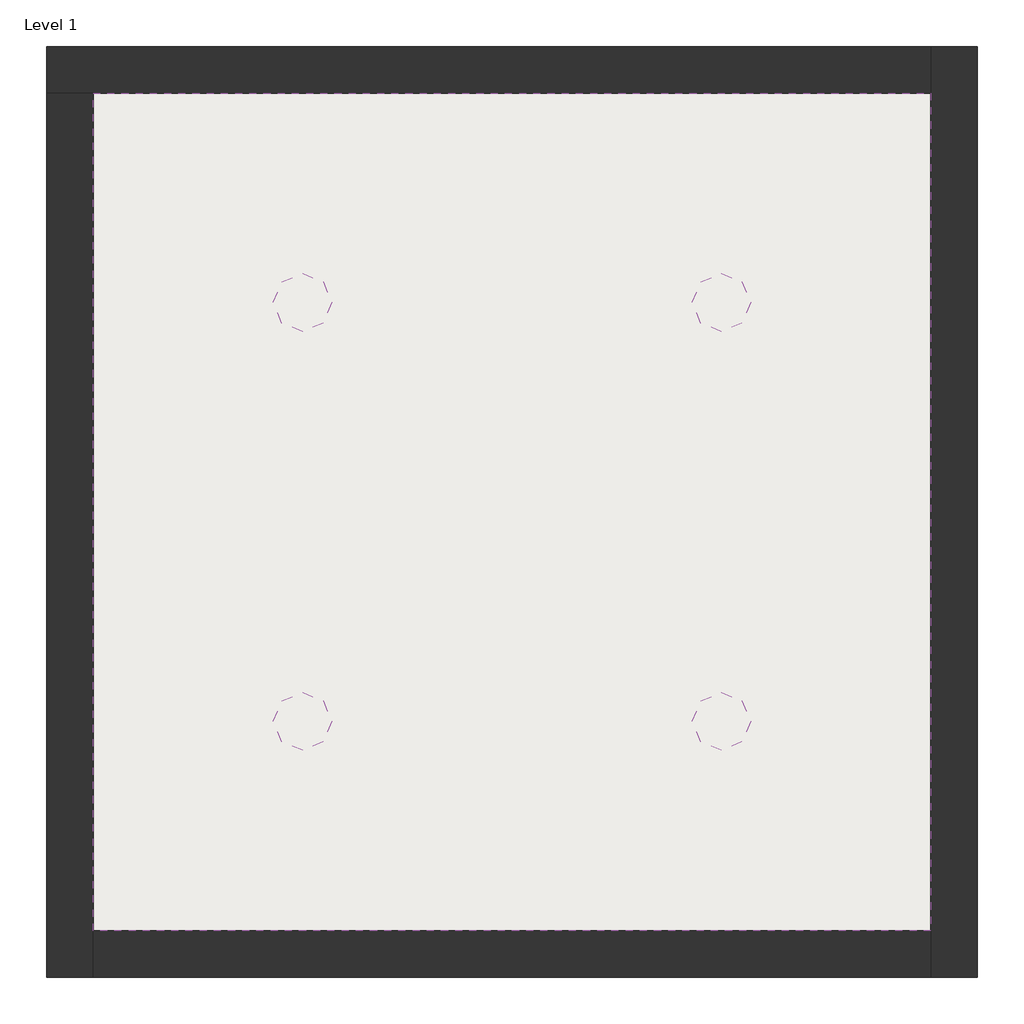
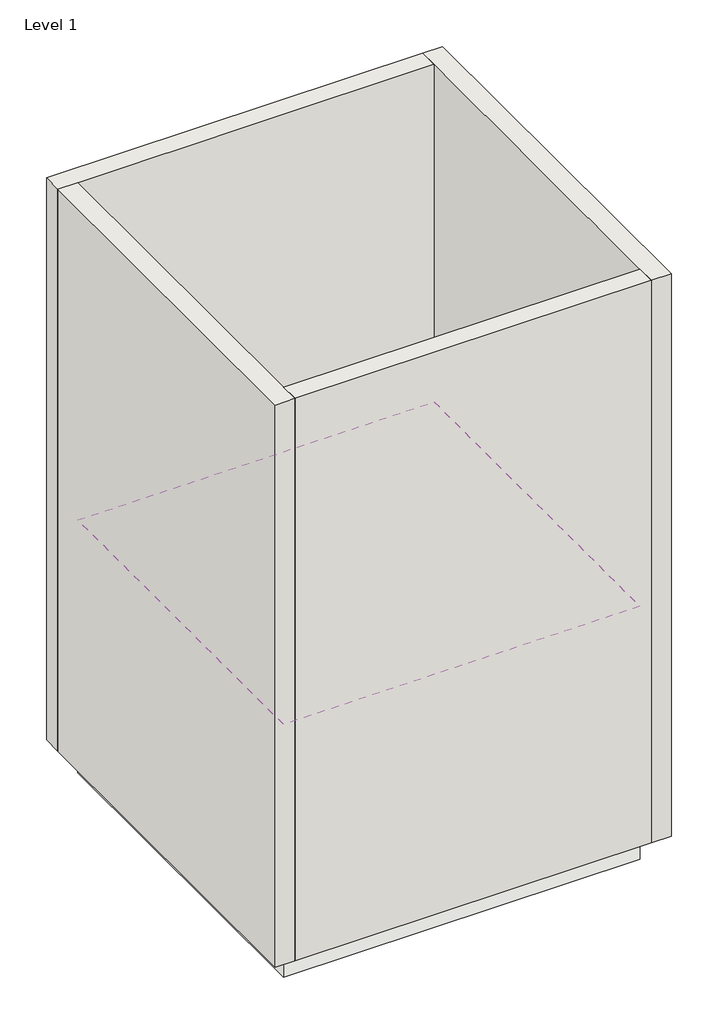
# One storey: 4 light fixtures, 4 walls, 1 covering, 1 slab.
"""IFC4 building model written with IfcOpenShell, lengths in millimetres."""

from ifc_helpers import new_model, si_unit, point, frame, frame_2d, origin, origin_with_axes, place, context, project, spatial, polyline, circle_curve, trimmed, segment, composite_curve, outline, extrude, faceted_brep, transform, mapped, element, save
from components import light_fixture_baddad79

model = new_model("IFC4")

# Units and contexts
model_context = context("Model", 3, world=origin())
ifc_project = project(units=[si_unit("LENGTHUNIT", "METRE", prefix="MILLI")], contexts=[model_context])

# Site, building, storey
site = spatial("IfcSite", under=ifc_project)
building = spatial("IfcBuilding", under=site)
storey = spatial("IfcBuildingStorey", under=building, Name="Level 1", Elevation=0.0)

# Covering
placement = place(None, origin())
element("IfcCovering", 1, ObjectType="2' x 2' ACT System", at=placement, inside=storey, context=model_context, shape_type="SweptSolid", body=[
    extrude(outline(polyline([(-18201.184988, 7944.2169114), (-14543.584988, 7944.2169114), (-14543.584988, 4286.6169114), (-18201.184988, 4286.6169114), (-18201.184988, 7944.2169114)]), holes=[composite_curve([segment(trimmed(circle_curve(frame_2d((-17286.784988, 7029.8169114)), 127.0), [point((-17413.784988, 7029.8169114))], [point((-17159.784988, 7029.8169114))], True, "CARTESIAN"), True, "CONTINUOUS"), segment(trimmed(circle_curve(frame_2d((-17286.784988, 7029.8169114)), 127.0), [point((-17159.784988, 7029.8169114))], [point((-17413.784988, 7029.8169114))], True, "CARTESIAN"), True, "CONTINUOUS")], self_intersect=False), composite_curve([segment(trimmed(circle_curve(frame_2d((-15457.984988, 7029.8169114)), 127.0), [point((-15584.984988, 7029.8169114))], [point((-15330.984988, 7029.8169114))], True, "CARTESIAN"), True, "CONTINUOUS"), segment(trimmed(circle_curve(frame_2d((-15457.984988, 7029.8169114)), 127.0), [point((-15330.984988, 7029.8169114))], [point((-15584.984988, 7029.8169114))], True, "CARTESIAN"), True, "CONTINUOUS")], self_intersect=False), composite_curve([segment(trimmed(circle_curve(frame_2d((-17286.784988, 5201.0169114)), 127.0), [point((-17413.784988, 5201.0169114))], [point((-17159.784988, 5201.0169114))], True, "CARTESIAN"), True, "CONTINUOUS"), segment(trimmed(circle_curve(frame_2d((-17286.784988, 5201.0169114)), 127.0), [point((-17159.784988, 5201.0169114))], [point((-17413.784988, 5201.0169114))], True, "CARTESIAN"), True, "CONTINUOUS")], self_intersect=False), composite_curve([segment(trimmed(circle_curve(frame_2d((-15457.984988, 5201.0169114)), 127.0), [point((-15584.984988, 5201.0169114))], [point((-15330.984988, 5201.0169114))], True, "CARTESIAN"), True, "CONTINUOUS"), segment(trimmed(circle_curve(frame_2d((-15457.984988, 5201.0169114)), 127.0), [point((-15330.984988, 5201.0169114))], [point((-15584.984988, 5201.0169114))], True, "CARTESIAN"), True, "CONTINUOUS")], self_intersect=False)]), frame((0.0, 0.0, 2438.4), z_axis=(0.0, 0.0, 1.0), x_axis=(1.0, 0.0, 0.0)), (0.0, 0.0, 1.0), 57.15),
])

# Light fixtures
light_fixture_shape = light_fixture_baddad79(model_context)
element("IfcLightFixture", 2, ObjectType="8 inch Open Downlight 32W TRT : 8 inch Open Downlight 32W TRT", at=placement, inside=storey, context=model_context, shape_type="MappedRepresentation", body=[
    mapped(light_fixture_shape, transform((-17286.784988, 7029.8169114, 0.0), x_axis=(1.0, 0.0, 0.0), y_axis=(0.0, 1.0, 0.0), z_axis=(0.0, 0.0, 1.0))),
])
element("IfcLightFixture", 3, ObjectType="8 inch Open Downlight 32W TRT : 8 inch Open Downlight 32W TRT", at=placement, inside=storey, context=model_context, shape_type="MappedRepresentation", body=[
    mapped(light_fixture_shape, transform((-15457.984988, 7029.8169114, 0.0), x_axis=(1.0, 0.0, 0.0), y_axis=(0.0, 1.0, 0.0), z_axis=(0.0, 0.0, 1.0))),
])
element("IfcLightFixture", 4, ObjectType="8 inch Open Downlight 32W TRT : 8 inch Open Downlight 32W TRT", at=placement, inside=storey, context=model_context, shape_type="MappedRepresentation", body=[
    mapped(light_fixture_shape, transform((-17286.784988, 5201.0169114, 0.0), x_axis=(1.0, 0.0, 0.0), y_axis=(0.0, 1.0, 0.0), z_axis=(0.0, 0.0, 1.0))),
])
element("IfcLightFixture", 5, ObjectType="8 inch Open Downlight 32W TRT : 8 inch Open Downlight 32W TRT", at=placement, inside=storey, context=model_context, shape_type="MappedRepresentation", body=[
    mapped(light_fixture_shape, transform((-15457.984988, 5201.0169114, 0.0), x_axis=(1.0, 0.0, 0.0), y_axis=(0.0, 1.0, 0.0), z_axis=(0.0, 0.0, 1.0))),
])

# Slab
element("IfcSlab", 6, ObjectType="Generic - 12\"", at=placement, inside=storey, context=model_context, shape_type="SweptSolid", body=[
    extrude(outline(polyline([(-18201.184988, 7944.2169114), (-14543.584988, 7944.2169114), (-14543.584988, 4286.6169114), (-18201.184988, 4286.6169114), (-18201.184988, 7944.2169114)])), frame((0.0, 0.0, -304.8), z_axis=(0.0, 0.0, 1.0), x_axis=(1.0, 0.0, 0.0)), (0.0, 0.0, 1.0), 304.8),
])

# Walls
element("IfcWall", 7, ObjectType="Generic - 8\"", at=placement, inside=storey, context=model_context, shape_type="Brep", body=[
    faceted_brep([(-18404.384988, 7944.2169114, 0.0), (-18201.184988, 7944.2169114, 0.0), (-14543.584988, 7944.2169114, 0.0), (-14543.584988, 7944.2169114, 6096.0), (-18201.184988, 7944.2169114, 6096.0), (-18404.384988, 7944.2169114, 6096.0), (-18404.384988, 8147.4169114, 0.0), (-18404.384988, 8147.4169114, 6096.0), (-14543.584988, 8147.4169114, 6096.0), (-14543.584988, 8147.4169114, 0.0)], [[[0, 1, 2, 3, 4, 5]], [[6, 7, 8, 9]], [[2, 1, 0, 6, 9]], [[5, 4, 3, 8, 7]], [[0, 5, 7, 6]], [[3, 2, 9, 8]]]),
])
element("IfcWall", 8, ObjectType="Generic - 8\"", at=placement, inside=storey, context=model_context, shape_type="Brep", body=[
    faceted_brep([(-18201.184988, 4083.4169114, 0.0), (-18201.184988, 4286.6169114, 0.0), (-18201.184988, 7944.2169114, 0.0), (-18201.184988, 7944.2169114, 6096.0), (-18201.184988, 4286.6169114, 6096.0), (-18201.184988, 4083.4169114, 6096.0), (-18404.384988, 4083.4169114, 0.0), (-18404.384988, 4083.4169114, 6096.0), (-18404.384988, 7944.2169114, 6096.0), (-18404.384988, 7944.2169114, 0.0)], [[[0, 1, 2, 3, 4, 5]], [[6, 7, 8, 9]], [[2, 1, 0, 6, 9]], [[5, 4, 3, 8, 7]], [[0, 5, 7, 6]], [[3, 2, 9, 8]]]),
])
element("IfcWall", 9, ObjectType="Generic - 8\"", at=placement, inside=storey, context=model_context, shape_type="SweptSolid", body=[
    extrude(outline(polyline([(-18201.184988, 4286.6169114), (-14543.584988, 4286.6169114), (-14543.584988, 4083.4169114), (-18201.184988, 4083.4169114), (-18201.184988, 4286.6169114)])), origin_with_axes(), (0.0, 0.0, 1.0), 6096.0),
])
element("IfcWall", 10, ObjectType="Generic - 8\"", at=placement, inside=storey, context=model_context, shape_type="Brep", body=[
    faceted_brep([(-14543.584988, 8147.4169114, 0.0), (-14543.584988, 7944.2169114, 0.0), (-14543.584988, 4286.6169114, 0.0), (-14543.584988, 4083.4169114, 0.0), (-14543.584988, 4083.4169114, 6096.0), (-14543.584988, 4286.6169114, 6096.0), (-14543.584988, 7944.2169114, 6096.0), (-14543.584988, 8147.4169114, 6096.0), (-14340.384988, 8147.4169114, 0.0), (-14340.384988, 8147.4169114, 6096.0), (-14340.384988, 4083.4169114, 6096.0), (-14340.384988, 4083.4169114, 0.0)], [[[0, 1, 2, 3, 4, 5, 6, 7]], [[8, 9, 10, 11]], [[3, 2, 1, 0, 8, 11]], [[7, 6, 5, 4, 10, 9]], [[0, 7, 9, 8]], [[4, 3, 11, 10]]]),
])

save(model, "model.ifc")
